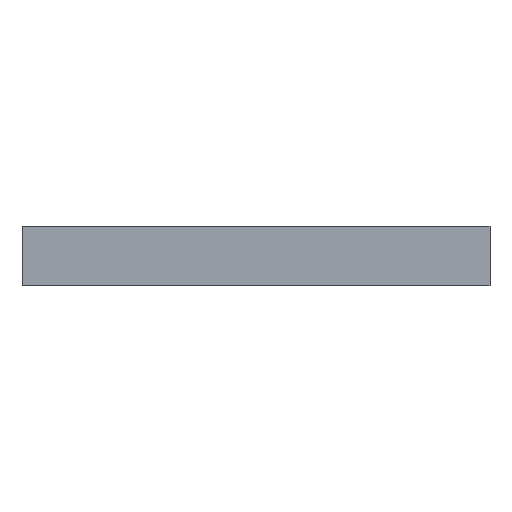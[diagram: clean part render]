
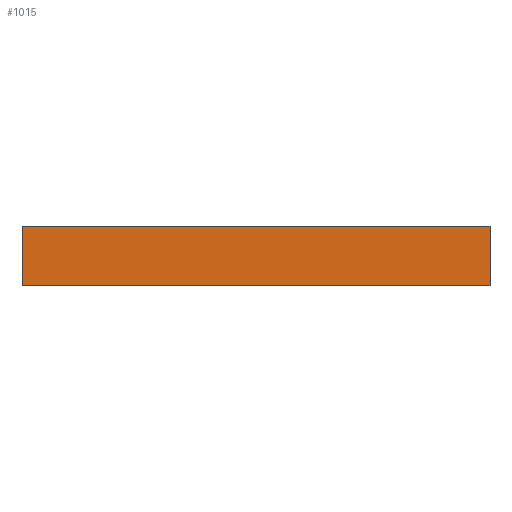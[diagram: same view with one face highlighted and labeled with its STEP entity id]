
A CAD part, front view. The second image highlights one B-rep face of the part: STEP entity #1015.
In plain terms, the highlighted planar face has unit normal (0, -1, 0).
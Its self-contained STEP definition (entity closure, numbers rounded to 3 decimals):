
#22 = VERTEX_POINT('',#23);
#23 = CARTESIAN_POINT('',(0.,-35.,-35.));
#32 = PLANE('',#33);
#33 = AXIS2_PLACEMENT_3D('',#34,#35,#36);
#34 = CARTESIAN_POINT('',(0.,-35.,-35.));
#35 = DIRECTION('',(0.,0.,1.));
#36 = DIRECTION('',(0.,1.,0.));
#44 = PLANE('',#45);
#45 = AXIS2_PLACEMENT_3D('',#46,#47,#48);
#46 = CARTESIAN_POINT('',(0.,0.,1.889));
#47 = DIRECTION('',(1.,0.,0.));
#48 = DIRECTION('',(-0.,0.,1.));
#56 = EDGE_CURVE('',#22,#57,#59,.T.);
#57 = VERTEX_POINT('',#58);
#58 = CARTESIAN_POINT('',(546.29,-35.,-35.));
#59 = SURFACE_CURVE('',#60,(#64,#71),.PCURVE_S1.);
#60 = LINE('',#61,#62);
#61 = CARTESIAN_POINT('',(0.,-35.,-35.));
#62 = VECTOR('',#63,1.);
#63 = DIRECTION('',(1.,0.,0.));
#64 = PCURVE('',#32,#65);
#65 = DEFINITIONAL_REPRESENTATION('',(#66),#70);
#66 = LINE('',#67,#68);
#67 = CARTESIAN_POINT('',(0.,0.));
#68 = VECTOR('',#69,1.);
#69 = DIRECTION('',(0.,-1.));
#70 = ( GEOMETRIC_REPRESENTATION_CONTEXT(2) 
PARAMETRIC_REPRESENTATION_CONTEXT() REPRESENTATION_CONTEXT('2D SPACE',''
  ) );
#71 = PCURVE('',#72,#77);
#72 = PLANE('',#73);
#73 = AXIS2_PLACEMENT_3D('',#74,#75,#76);
#74 = CARTESIAN_POINT('',(0.,-35.,35.));
#75 = DIRECTION('',(-0.,1.,0.));
#76 = DIRECTION('',(0.,0.,-1.));
#77 = DEFINITIONAL_REPRESENTATION('',(#78),#82);
#78 = LINE('',#79,#80);
#79 = CARTESIAN_POINT('',(70.,0.));
#80 = VECTOR('',#81,1.);
#81 = DIRECTION('',(0.,-1.));
#82 = ( GEOMETRIC_REPRESENTATION_CONTEXT(2) 
PARAMETRIC_REPRESENTATION_CONTEXT() REPRESENTATION_CONTEXT('2D SPACE',''
  ) );
#100 = PLANE('',#101);
#101 = AXIS2_PLACEMENT_3D('',#102,#103,#104);
#102 = CARTESIAN_POINT('',(546.29,0.,1.889));
#103 = DIRECTION('',(1.,0.,0.));
#104 = DIRECTION('',(-0.,0.,1.));
#142 = VERTEX_POINT('',#143);
#143 = CARTESIAN_POINT('',(0.,-35.,35.));
#157 = PLANE('',#158);
#158 = AXIS2_PLACEMENT_3D('',#159,#160,#161);
#159 = CARTESIAN_POINT('',(0.,-14.,35.));
#160 = DIRECTION('',(0.,0.,-1.));
#161 = DIRECTION('',(0.,-1.,0.));
#169 = EDGE_CURVE('',#142,#22,#170,.T.);
#170 = SURFACE_CURVE('',#171,(#175,#182),.PCURVE_S1.);
#171 = LINE('',#172,#173);
#172 = CARTESIAN_POINT('',(0.,-35.,35.));
#173 = VECTOR('',#174,1.);
#174 = DIRECTION('',(0.,0.,-1.));
#175 = PCURVE('',#44,#176);
#176 = DEFINITIONAL_REPRESENTATION('',(#177),#181);
#177 = LINE('',#178,#179);
#178 = CARTESIAN_POINT('',(33.111,35.));
#179 = VECTOR('',#180,1.);
#180 = DIRECTION('',(-1.,0.));
#181 = ( GEOMETRIC_REPRESENTATION_CONTEXT(2) 
PARAMETRIC_REPRESENTATION_CONTEXT() REPRESENTATION_CONTEXT('2D SPACE',''
  ) );
#182 = PCURVE('',#72,#183);
#183 = DEFINITIONAL_REPRESENTATION('',(#184),#188);
#184 = LINE('',#185,#186);
#185 = CARTESIAN_POINT('',(0.,0.));
#186 = VECTOR('',#187,1.);
#187 = DIRECTION('',(1.,0.));
#188 = ( GEOMETRIC_REPRESENTATION_CONTEXT(2) 
PARAMETRIC_REPRESENTATION_CONTEXT() REPRESENTATION_CONTEXT('2D SPACE',''
  ) );
#657 = VERTEX_POINT('',#658);
#658 = CARTESIAN_POINT('',(546.29,-35.,35.));
#679 = EDGE_CURVE('',#657,#57,#680,.T.);
#680 = SURFACE_CURVE('',#681,(#685,#692),.PCURVE_S1.);
#681 = LINE('',#682,#683);
#682 = CARTESIAN_POINT('',(546.29,-35.,35.));
#683 = VECTOR('',#684,1.);
#684 = DIRECTION('',(0.,0.,-1.));
#685 = PCURVE('',#100,#686);
#686 = DEFINITIONAL_REPRESENTATION('',(#687),#691);
#687 = LINE('',#688,#689);
#688 = CARTESIAN_POINT('',(33.111,35.));
#689 = VECTOR('',#690,1.);
#690 = DIRECTION('',(-1.,0.));
#691 = ( GEOMETRIC_REPRESENTATION_CONTEXT(2) 
PARAMETRIC_REPRESENTATION_CONTEXT() REPRESENTATION_CONTEXT('2D SPACE',''
  ) );
#692 = PCURVE('',#72,#693);
#693 = DEFINITIONAL_REPRESENTATION('',(#694),#698);
#694 = LINE('',#695,#696);
#695 = CARTESIAN_POINT('',(0.,-546.29));
#696 = VECTOR('',#697,1.);
#697 = DIRECTION('',(1.,0.));
#698 = ( GEOMETRIC_REPRESENTATION_CONTEXT(2) 
PARAMETRIC_REPRESENTATION_CONTEXT() REPRESENTATION_CONTEXT('2D SPACE',''
  ) );
#1015 = ADVANCED_FACE('',(#1016),#72,.F.);
#1016 = FACE_BOUND('',#1017,.F.);
#1017 = EDGE_LOOP('',(#1018,#1039,#1040,#1041));
#1018 = ORIENTED_EDGE('',*,*,#1019,.T.);
#1019 = EDGE_CURVE('',#142,#657,#1020,.T.);
#1020 = SURFACE_CURVE('',#1021,(#1025,#1032),.PCURVE_S1.);
#1021 = LINE('',#1022,#1023);
#1022 = CARTESIAN_POINT('',(0.,-35.,35.));
#1023 = VECTOR('',#1024,1.);
#1024 = DIRECTION('',(1.,0.,0.));
#1025 = PCURVE('',#72,#1026);
#1026 = DEFINITIONAL_REPRESENTATION('',(#1027),#1031);
#1027 = LINE('',#1028,#1029);
#1028 = CARTESIAN_POINT('',(0.,0.));
#1029 = VECTOR('',#1030,1.);
#1030 = DIRECTION('',(0.,-1.));
#1031 = ( GEOMETRIC_REPRESENTATION_CONTEXT(2) 
PARAMETRIC_REPRESENTATION_CONTEXT() REPRESENTATION_CONTEXT('2D SPACE',''
  ) );
#1032 = PCURVE('',#157,#1033);
#1033 = DEFINITIONAL_REPRESENTATION('',(#1034),#1038);
#1034 = LINE('',#1035,#1036);
#1035 = CARTESIAN_POINT('',(21.,0.));
#1036 = VECTOR('',#1037,1.);
#1037 = DIRECTION('',(0.,-1.));
#1038 = ( GEOMETRIC_REPRESENTATION_CONTEXT(2) 
PARAMETRIC_REPRESENTATION_CONTEXT() REPRESENTATION_CONTEXT('2D SPACE',''
  ) );
#1039 = ORIENTED_EDGE('',*,*,#679,.T.);
#1040 = ORIENTED_EDGE('',*,*,#56,.F.);
#1041 = ORIENTED_EDGE('',*,*,#169,.F.);
